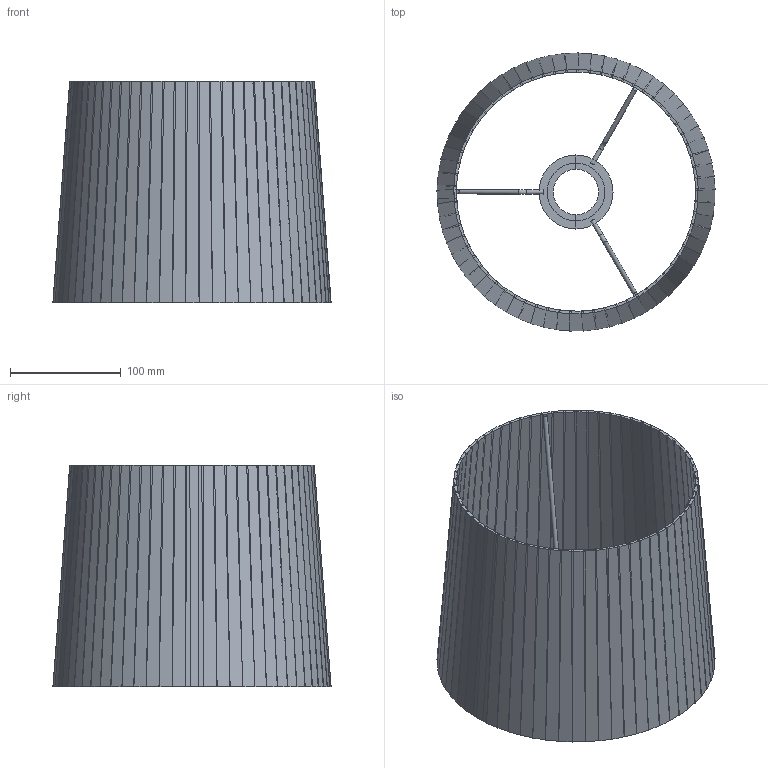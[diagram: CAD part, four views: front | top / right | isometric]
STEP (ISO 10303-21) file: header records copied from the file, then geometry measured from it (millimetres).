
FILE_DESCRIPTION(/* description */ (''),/* implementation_level */ '2;1');
FILE_NAME(/* name */ 'C:\Users\francosartori\Documents\Modelos\01_Digitalizados\0_Pantallas\03_Publicación\2P062X\2P0627.stp',/* time_stamp */ '2020-05-29T09:45:26+02:00',/* author */ ('FrancoSartori'),/* organization */ (''),/* preprocessor_version */ 'ST-DEVELOPER v18.1',/* originating_system */ 'AutoCAD Mechanical',/* authorisation */ '');
FILE_SCHEMA (('AUTOMOTIVE_DESIGN { 1 0 10303 214 3 1 1 }'));
Length unit declared in the file: millimetre
Products named in the file (2): Product; 2P062X_SHADE - Shade-457263-_3D_
Assembly tree (1 placements, depth 2):
  Product
    2P062X_SHADE - Shade-457263-_3D_
Bounding box: 251.05 x 250.95 x 200.21 mm (x, y, z)
Volume: 391935.6 mm3; surface area: 399563 mm2
Topology: 71 solids, 71 shells, 568 faces, 1262 edges, 832 vertices
Faces by surface type: plane 542, cylinder 20, torus 6
Entity records: 15501 total; most frequent: CARTESIAN_POINT 2857, ORIENTED_EDGE 2524, DIRECTION 2414, EDGE_CURVE 1262, LINE 1216, VECTOR 1216, VERTEX_POINT 832, AXIS2_PLACEMENT_3D 599
